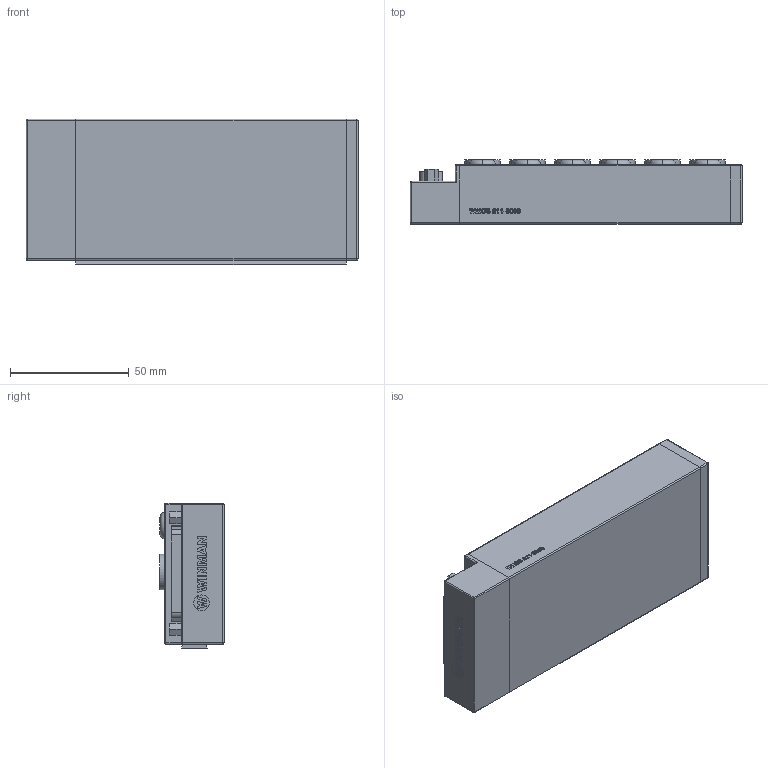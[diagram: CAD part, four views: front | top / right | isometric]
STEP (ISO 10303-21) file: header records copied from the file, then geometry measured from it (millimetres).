
FILE_DESCRIPTION (( 'STEP AP214' ), '1' );
FILE_NAME ('WMCS-211-0006 (3D).STEP', '2020-10-05T10:19:39', ( '' ), ( '' ), 'SwSTEP 2.0', 'SolidWorks 2016', '' );
FILE_SCHEMA (( 'AUTOMOTIVE_DESIGN' ));
Length unit declared in the file: millimetre
Products named in the file (2): WMCS-211-0006 (3D); Group1^WMCS-211-0006 (3D)
Assembly tree (1 placements, depth 2):
  WMCS-211-0006 (3D)
    Group1^WMCS-211-0006 (3D)
Bounding box: 140 x 27 x 61.5 mm (x, y, z)
Volume: 205937.2 mm3; surface area: 35640.7 mm2
Topology: 3 solids, 3 shells, 547 faces, 1440 edges, 926 vertices
Faces by surface type: plane 310, bspline 120, cylinder 105, torus 12
Entity records: 24615 total; most frequent: CARTESIAN_POINT 8569, ORIENTED_EDGE 2760, DIRECTION 2362, EDGE_CURVE 1380, VERTEX_POINT 926, VECTOR 916, LINE 916, AXIS2_PLACEMENT_3D 723
